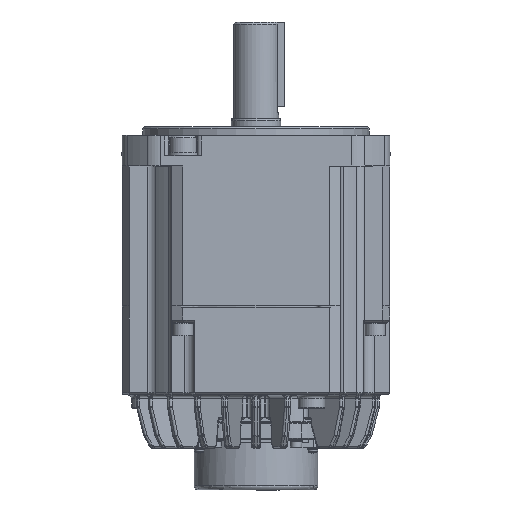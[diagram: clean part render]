
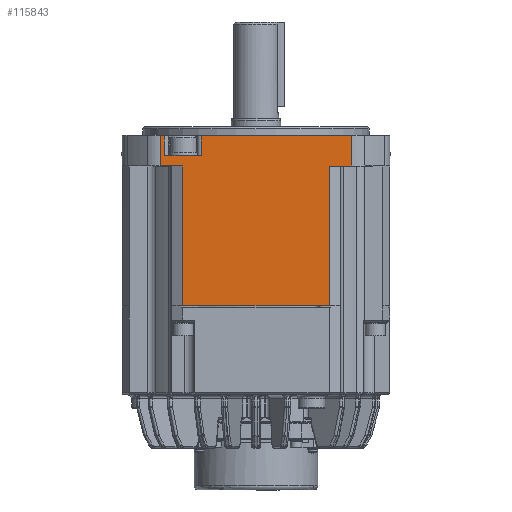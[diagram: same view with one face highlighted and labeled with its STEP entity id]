
A CAD part, front view. The second image highlights one B-rep face of the part: STEP entity #115843.
In plain terms, the highlighted planar face has unit normal (0, -1, 0).
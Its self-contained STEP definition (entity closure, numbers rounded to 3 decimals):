
#2236 = DIRECTION ( 'NONE',  ( 0., 0., 1. ) ) ;
#2438 = CARTESIAN_POINT ( 'NONE',  ( -186.476, -63.911, -29.499 ) ) ;
#2596 = CARTESIAN_POINT ( 'NONE',  ( -269.176, -63.911, -18.535 ) ) ;
#10572 = DIRECTION ( 'NONE',  ( 1., 0., 0. ) ) ;
#11638 = CARTESIAN_POINT ( 'NONE',  ( -186.476, -63.911, -100.501 ) ) ;
#13122 = LINE ( 'NONE', #27252, #42337 ) ;
#13994 = VERTEX_POINT ( 'NONE', #83154 ) ;
#14183 = LINE ( 'NONE', #39916, #47237 ) ;
#17797 = EDGE_CURVE ( 'NONE', #124150, #102596, #126660, .T. ) ;
#18717 = EDGE_CURVE ( 'NONE', #112878, #23644, #35216, .T. ) ;
#18914 = EDGE_CURVE ( 'NONE', #23644, #13994, #151357, .T. ) ;
#19397 = EDGE_CURVE ( 'NONE', #102596, #112878, #79791, .T. ) ;
#19447 = EDGE_CURVE ( 'NONE', #13994, #56944, #42790, .T. ) ;
#20202 = EDGE_CURVE ( 'NONE', #56944, #154955, #153063, .T. ) ;
#20443 = EDGE_CURVE ( 'NONE', #139635, #56231, #38780, .T. ) ;
#20626 = ORIENTED_EDGE ( 'NONE', *, *, #23521, .T. ) ;
#21171 = EDGE_CURVE ( 'NONE', #56231, #160289, #71639, .T. ) ;
#21580 = EDGE_CURVE ( 'NONE', #160289, #114840, #143180, .T. ) ;
#22085 = EDGE_CURVE ( 'NONE', #114840, #107143, #13122, .T. ) ;
#22295 = EDGE_CURVE ( 'NONE', #107143, #83058, #67578, .T. ) ;
#23261 = EDGE_CURVE ( 'NONE', #83058, #143405, #88839, .T. ) ;
#23286 = EDGE_CURVE ( 'NONE', #143405, #150801, #26651, .T. ) ;
#23521 = EDGE_CURVE ( 'NONE', #150801, #124150, #131265, .T. ) ;
#23644 = VERTEX_POINT ( 'NONE', #54038 ) ;
#24205 = EDGE_CURVE ( 'NONE', #154955, #139635, #14183, .T. ) ;
#26304 = DIRECTION ( 'NONE',  ( 0., 0., -1. ) ) ;
#26651 = LINE ( 'NONE', #84046, #154471 ) ;
#27252 = CARTESIAN_POINT ( 'NONE',  ( -259.476, -63.911, -29.499 ) ) ;
#30554 = ORIENTED_EDGE ( 'NONE', *, *, #22295, .T. ) ;
#34919 = VECTOR ( 'NONE', #46063, 1000. ) ;
#35216 = LINE ( 'NONE', #11638, #130162 ) ;
#35759 = ORIENTED_EDGE ( 'NONE', *, *, #23261, .T. ) ;
#38632 = VECTOR ( 'NONE', #126046, 1000. ) ;
#38780 = LINE ( 'NONE', #46770, #34919 ) ;
#39916 = CARTESIAN_POINT ( 'NONE',  ( -254.476, -63.911, -29.499 ) ) ;
#42337 = VECTOR ( 'NONE', #26304, 1000. ) ;
#42790 = LINE ( 'NONE', #117343, #104898 ) ;
#46063 = DIRECTION ( 'NONE',  ( -1., 0., 0. ) ) ;
#46605 = AXIS2_PLACEMENT_3D ( 'NONE', #61659, #74285, #160777 ) ;
#46770 = CARTESIAN_POINT ( 'NONE',  ( -186.476, -63.911, -18.535 ) ) ;
#47237 = VECTOR ( 'NONE', #138464, 1000. ) ;
#48190 = VECTOR ( 'NONE', #97978, 1000. ) ;
#49445 = ORIENTED_EDGE ( 'NONE', *, *, #21171, .T. ) ;
#50724 = CARTESIAN_POINT ( 'NONE',  ( -254.476, -63.911, -100.501 ) ) ;
#52305 = CARTESIAN_POINT ( 'NONE',  ( -186.476, -63.911, -29.499 ) ) ;
#54038 = CARTESIAN_POINT ( 'NONE',  ( -186.476, -63.911, -100.501 ) ) ;
#56231 = VERTEX_POINT ( 'NONE', #2596 ) ;
#56427 = FACE_OUTER_BOUND ( 'NONE', #129217, .T. ) ;
#56944 = VERTEX_POINT ( 'NONE', #52305 ) ;
#57725 = CARTESIAN_POINT ( 'NONE',  ( -259.476, -63.911, -102.289 ) ) ;
#57811 = DIRECTION ( 'NONE',  ( 0., 0., -1. ) ) ;
#57937 = CARTESIAN_POINT ( 'NONE',  ( -269.176, -63.911, -29.499 ) ) ;
#58792 = CARTESIAN_POINT ( 'NONE',  ( -186.476, -63.911, -29.499 ) ) ;
#61296 = DIRECTION ( 'NONE',  ( -1., 0., 0. ) ) ;
#61659 = CARTESIAN_POINT ( 'NONE',  ( -186.476, -63.911, -29.499 ) ) ;
#66908 = ORIENTED_EDGE ( 'NONE', *, *, #20443, .T. ) ;
#67578 = LINE ( 'NONE', #151255, #137304 ) ;
#69044 = CARTESIAN_POINT ( 'NONE',  ( -259.476, -63.911, -98.711 ) ) ;
#69290 = VECTOR ( 'NONE', #57811, 1000. ) ;
#71639 = LINE ( 'NONE', #126201, #38632 ) ;
#74285 = DIRECTION ( 'NONE',  ( 0., -1., 0. ) ) ;
#79378 = ORIENTED_EDGE ( 'NONE', *, *, #21580, .T. ) ;
#79791 = LINE ( 'NONE', #121798, #112650 ) ;
#82971 = ORIENTED_EDGE ( 'NONE', *, *, #17797, .T. ) ;
#83058 = VERTEX_POINT ( 'NONE', #57725 ) ;
#83154 = CARTESIAN_POINT ( 'NONE',  ( -186.476, -63.911, -65. ) ) ;
#83717 = DIRECTION ( 'NONE',  ( -1., 0., 0. ) ) ;
#83860 = DIRECTION ( 'NONE',  ( 0., 0., -1. ) ) ;
#84046 = CARTESIAN_POINT ( 'NONE',  ( -186.476, -63.911, -109.5 ) ) ;
#84234 = CARTESIAN_POINT ( 'NONE',  ( -259.476, -63.911, -29.499 ) ) ;
#84582 = DIRECTION ( 'NONE',  ( 1., 0., 0. ) ) ;
#84913 = VECTOR ( 'NONE', #83860, 1000. ) ;
#85515 = CARTESIAN_POINT ( 'NONE',  ( -186.476, -63.911, -111.465 ) ) ;
#85690 = VECTOR ( 'NONE', #2236, 1000. ) ;
#88839 = LINE ( 'NONE', #84234, #84913 ) ;
#92570 = ORIENTED_EDGE ( 'NONE', *, *, #23286, .T. ) ;
#94253 = CARTESIAN_POINT ( 'NONE',  ( -259.476, -63.911, -91.5 ) ) ;
#97847 = CARTESIAN_POINT ( 'NONE',  ( -186.476, -63.911, -91.5 ) ) ;
#97978 = DIRECTION ( 'NONE',  ( 1., 0., 0. ) ) ;
#102596 = VERTEX_POINT ( 'NONE', #145751 ) ;
#104164 = ORIENTED_EDGE ( 'NONE', *, *, #18717, .T. ) ;
#104685 = ORIENTED_EDGE ( 'NONE', *, *, #18914, .T. ) ;
#104898 = VECTOR ( 'NONE', #117119, 1000. ) ;
#107143 = VERTEX_POINT ( 'NONE', #69044 ) ;
#111550 = CARTESIAN_POINT ( 'NONE',  ( -254.476, -63.911, -29.499 ) ) ;
#112650 = VECTOR ( 'NONE', #118064, 1000. ) ;
#112878 = VERTEX_POINT ( 'NONE', #50724 ) ;
#114840 = VERTEX_POINT ( 'NONE', #94253 ) ;
#115096 = ORIENTED_EDGE ( 'NONE', *, *, #19447, .T. ) ;
#115843 = ADVANCED_FACE ( 'NONE', ( #56427 ), #148335, .T. ) ;
#117119 = DIRECTION ( 'NONE',  ( 0., 0., 1. ) ) ;
#117343 = CARTESIAN_POINT ( 'NONE',  ( -186.476, -63.911, -29.499 ) ) ;
#117750 = ORIENTED_EDGE ( 'NONE', *, *, #20202, .T. ) ;
#118064 = DIRECTION ( 'NONE',  ( 0., 0., 1. ) ) ;
#120279 = VECTOR ( 'NONE', #61296, 1000. ) ;
#121798 = CARTESIAN_POINT ( 'NONE',  ( -254.476, -63.911, -29.499 ) ) ;
#122837 = CARTESIAN_POINT ( 'NONE',  ( -269.176, -63.911, -109.5 ) ) ;
#124150 = VERTEX_POINT ( 'NONE', #146698 ) ;
#126046 = DIRECTION ( 'NONE',  ( 0., 0., -1. ) ) ;
#126201 = CARTESIAN_POINT ( 'NONE',  ( -269.176, -63.911, -29.499 ) ) ;
#126660 = LINE ( 'NONE', #85515, #159260 ) ;
#129142 = CARTESIAN_POINT ( 'NONE',  ( -259.476, -63.911, -109.5 ) ) ;
#129217 = EDGE_LOOP ( 'NONE', ( #92570, #20626, #82971, #136604, #104164, #104685, #115096, #117750, #157665, #66908, #49445, #79378, #146347, #30554, #35759 ) ) ;
#130162 = VECTOR ( 'NONE', #10572, 1000. ) ;
#131265 = LINE ( 'NONE', #57937, #69290 ) ;
#133292 = CARTESIAN_POINT ( 'NONE',  ( -254.476, -63.911, -18.535 ) ) ;
#136604 = ORIENTED_EDGE ( 'NONE', *, *, #19397, .T. ) ;
#137304 = VECTOR ( 'NONE', #150738, 1000. ) ;
#138464 = DIRECTION ( 'NONE',  ( 0., 0., 1. ) ) ;
#139635 = VERTEX_POINT ( 'NONE', #133292 ) ;
#140723 = CARTESIAN_POINT ( 'NONE',  ( -269.176, -63.911, -91.5 ) ) ;
#143180 = LINE ( 'NONE', #97847, #48190 ) ;
#143405 = VERTEX_POINT ( 'NONE', #129142 ) ;
#145751 = CARTESIAN_POINT ( 'NONE',  ( -254.476, -63.911, -111.465 ) ) ;
#146347 = ORIENTED_EDGE ( 'NONE', *, *, #22085, .T. ) ;
#146698 = CARTESIAN_POINT ( 'NONE',  ( -269.176, -63.911, -111.465 ) ) ;
#148335 = PLANE ( 'NONE',  #46605 ) ;
#150738 = DIRECTION ( 'NONE',  ( 0., 0., -1. ) ) ;
#150801 = VERTEX_POINT ( 'NONE', #122837 ) ;
#151255 = CARTESIAN_POINT ( 'NONE',  ( -259.476, -63.911, -29.499 ) ) ;
#151357 = LINE ( 'NONE', #2438, #85690 ) ;
#153063 = LINE ( 'NONE', #58792, #120279 ) ;
#154471 = VECTOR ( 'NONE', #83717, 1000. ) ;
#154955 = VERTEX_POINT ( 'NONE', #111550 ) ;
#157665 = ORIENTED_EDGE ( 'NONE', *, *, #24205, .T. ) ;
#159260 = VECTOR ( 'NONE', #84582, 1000. ) ;
#160289 = VERTEX_POINT ( 'NONE', #140723 ) ;
#160777 = DIRECTION ( 'NONE',  ( 1., 0., 0. ) ) ;
